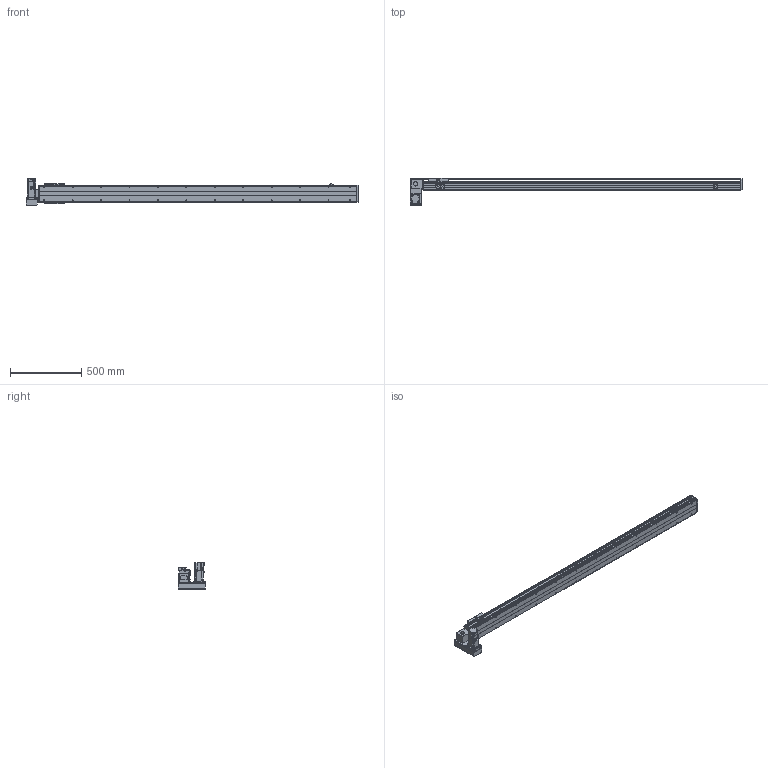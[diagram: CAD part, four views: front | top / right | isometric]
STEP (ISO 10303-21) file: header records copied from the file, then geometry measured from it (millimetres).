
FILE_DESCRIPTION( ( 'STEP AP214' ), '1' );
FILE_NAME( 'x:/temp/worker_6/temp/exporttempdir_3468_6_nrtuv/format_0/PBS120-P40-S1950-LD-T40-C1-N(0).stp', '2022-06-08T08:13:05', ( 'License CC BY-ND 4.0' ), ( 'CADENAS' ), ' ', 'PARTsolutions', ' ' );
FILE_SCHEMA( ( 'AUTOMOTIVE_DESIGN { 1 0 10303 214 1 1 1 1 }' ) );
Length unit declared in the file: millimetre
Products named in the file (7): PBS120-P40-S1950-LD-T40-C1-N(0); _PBS120-S1950()_body; _PBS120T-LD_motors; _T40-p1; _PBS120_sliser; _PBS120_plant; _PBS120_sensor
Assembly tree (8 placements, depth 2):
  PBS120-P40-S1950-LD-T40-C1-N(0)
    _PBS120-S1950()_body
    _PBS120T-LD_motors
    _T40-p1
    _PBS120_sliser
    _PBS120_plant
    _PBS120_sensor  x3
Bounding box: 2336 x 196 x 189.7 mm (x, y, z)
Volume: 9053500.1 mm3; surface area: 1845993.2 mm2
Topology: 8 solids, 8 shells, 852 faces, 2196 edges, 1411 vertices
Faces by surface type: plane 557, cylinder 237, cone 56, torus 2
Full cylindrical faces by diameter (mm): 2.459 x6, 3.242 x4, 4 x2, 4.134 x4, 4.5 x10, 4.917 x28, 5.5 x11, 6 x2, 6.6 x1, 7 x2, 8.5 x4, 9 x4, 12 x1, 14 x1, 30 x2, 40 x1, 50 x2
Entity records: 27996 total; most frequent: DIRECTION 3836, CARTESIAN_POINT 3749, ORIENTED_EDGE 3550, EDGE_CURVE 1775, AXIS2_PLACEMENT_3D 1304, LINE 1228, VECTOR 1228, VERTEX_POINT 1217
